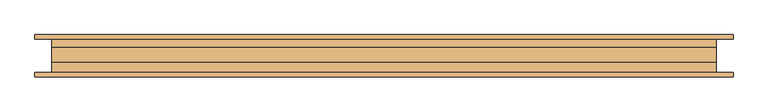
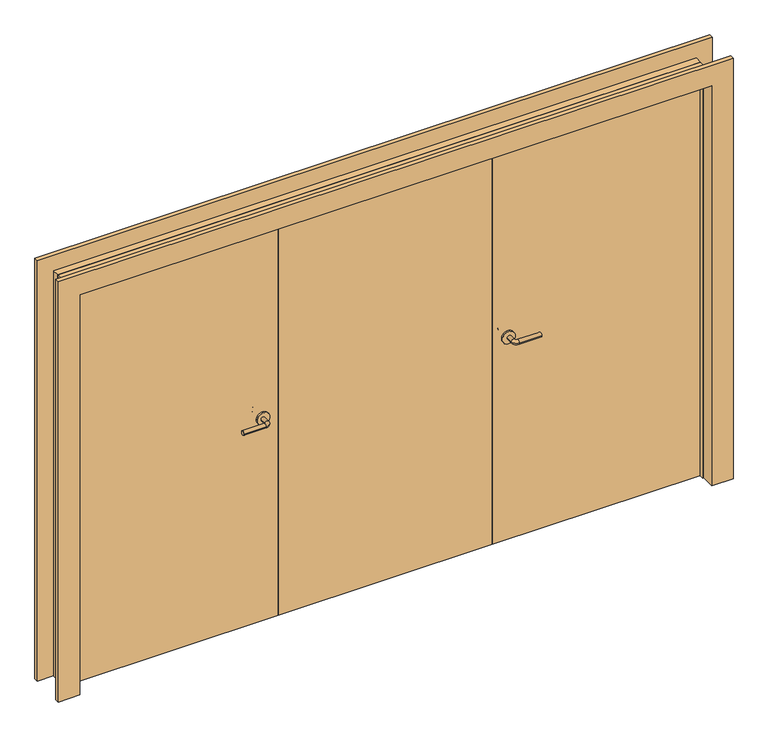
"""IFC4 building model written with IfcOpenShell, lengths in millimetres: door geometry, BIMHealth-Triple_Door-LOD2A-v1 : BIMHealth-Triple_Door-LOD2A-v1."""

from ifc_helpers import new_model, si_unit, point, frame, frame_2d, origin, origin_with_axes, place, context, project, spatial, polyline, circle_curve, ellipse_curve, trimmed, segment, composite_curve, outline, extrude, faceted_brep, source, transform, mapped, element, save
from ifc_brep_helpers import plane_surface, cylinder_surface, revolved_surface, advanced_brep


def door_7abc1c69(model_context):
    return source(origin(), model_context, "Body", "SolidModel", [
        advanced_brep(
        [(-565.0, -17.0700256, 1000.0), (-585.0, -17.0700256, 1000.0), (-565.0, -47.0700256, 1000.0), (-585.0, -47.0700256, 1000.0), (-590.0, -52.0700256, 1000.0), (-590.0, -72.0700256, 1000.0), (-695.0, -72.0700256, 1000.0), (-695.0, -52.0700256, 1000.0)],
        [
            (0, 1, circle_curve(frame((-575.0, -17.0700256, 1000.0), z_axis=(0.0, 1.0, 0.0), x_axis=(-1.0, 0.0, 0.0)), 10.0)),
            (1, 0, circle_curve(frame((-575.0, -17.0700256, 1000.0), z_axis=(0.0, 1.0, 0.0), x_axis=(-1.0, 0.0, 0.0)), 10.0)),
            (0, 2),
            (2, 3, circle_curve(frame((-575.0, -47.0700256, 1000.0), z_axis=(0.0, 1.0, 0.0), x_axis=(-1.0, 0.0, 0.0)), 10.0)),
            (3, 1),
            (3, 2, circle_curve(frame((-575.0, -47.0700256, 1000.0), z_axis=(0.0, 1.0, 0.0), x_axis=(-1.0, 0.0, 0.0)), 10.0)),
            (4, 3, circle_curve(frame((-590.0, -47.0700256, 1000.0), z_axis=(0.0, 0.0, 1.0), x_axis=(1.0, 0.0, 0.0)), 5.0)),
            (2, 5, circle_curve(frame((-590.0, -47.0700256, 1000.0), z_axis=(0.0, 0.0, -1.0), x_axis=(1.0, 0.0, 0.0)), 25.0)),
            (5, 4, circle_curve(frame((-590.0, -62.0700256, 1000.0), z_axis=(1.0, 0.0, 0.0), x_axis=(0.0, 1.0, 0.0)), 10.0)),
            (4, 5, circle_curve(frame((-590.0, -62.0700256, 1000.0), z_axis=(1.0, 0.0, 0.0), x_axis=(0.0, 1.0, 0.0)), 10.0)),
            (6, 7, circle_curve(frame((-695.0, -62.0700256, 1000.0), z_axis=(-1.0, 0.0, 0.0), x_axis=(0.0, 1.0, 0.0)), 10.0)),
            (7, 6, circle_curve(frame((-695.0, -62.0700256, 1000.0), z_axis=(-1.0, 0.0, 0.0), x_axis=(0.0, 1.0, 0.0)), 10.0)),
            (5, 6),
            (7, 4),
        ],
        [
            plane_surface(frame((-575.0, -17.0700256, 1000.0), z_axis=(0.0, 1.0, 0.0), x_axis=(0.0, 0.0, 1.0))),
            cylinder_surface(frame((-575.0, -17.0700256, 1000.0), z_axis=(0.0, 1.0, 0.0), x_axis=(-1.0, 0.0, 0.0)), 10.0),
            revolved_surface(trimmed(ellipse_curve(frame((-575.0, -47.0700256, 1000.0), z_axis=(0.0, 1.0, 0.0), x_axis=(-1.0, 0.0, 0.0)), 10.0, 10.0), [point((-565.0, -47.0700256, 1000.0))], [point((-585.0, -47.0700256, 1000.0))], True, "CARTESIAN"), (-590.0, -47.0700256, 1000.0), (0.0, 0.0, -1.0)),
            revolved_surface(trimmed(ellipse_curve(frame((-575.0, -47.0700256, 1000.0), z_axis=(0.0, 1.0, 0.0), x_axis=(-1.0, 0.0, 0.0)), 10.0, 10.0), [point((-585.0, -47.0700256, 1000.0))], [point((-565.0, -47.0700256, 1000.0))], True, "CARTESIAN"), (-590.0, -47.0700256, 1000.0), (0.0, 0.0, -1.0)),
            plane_surface(frame((-695.0, -62.0700256, 1000.0), z_axis=(-1.0, 0.0, 0.0), x_axis=(0.0, 0.0, 1.0))),
            cylinder_surface(frame((-590.0, -62.0700256, 1000.0), z_axis=(1.0, 0.0, 0.0), x_axis=(0.0, 1.0, 0.0)), 10.0),
        ],
        [
            (0, [[1, 2]]),
            (1, [[-1, 3, 4, 5]]),
            (1, [[-2, -5, 6, -3]]),
            (2, [[7, -4, 8, 9]]),
            (3, [[-8, -6, -7, 10]]),
            (4, [[11, 12]]),
            (5, [[-9, 13, -12, 14]]),
            (5, [[-10, -14, -11, -13]]),
        ],
    ),
        extrude(outline(composite_curve([segment(trimmed(circle_curve(frame_2d((1000.0, -572.5)), 30.0), [point((1000.0, -542.5))], [point((1000.0, -602.5))], False, "CARTESIAN"), True, "CONTINUOUS"), segment(trimmed(circle_curve(frame_2d((1000.0, -572.5)), 30.0), [point((1000.0, -602.5))], [point((1000.0, -542.5))], False, "CARTESIAN"), True, "CONTINUOUS")], self_intersect=False)), frame((0.0, -17.0700256, 0.0), z_axis=(0.0, 1.0, 0.0), x_axis=(0.0, 0.0, 1.0)), (0.0, 0.0, 1.0), 8.0),
        advanced_brep(
        [(-565.0, 23.9299744, 1000.0), (-585.0, 23.9299744, 1000.0), (-585.0, 53.9299744, 1000.0), (-565.0, 53.9299744, 1000.0), (-590.0, 58.9299744, 1000.0), (-590.0, 78.9299744, 1000.0), (-695.0, 78.9299744, 1000.0), (-695.0, 58.9299744, 1000.0)],
        [
            (0, 1, circle_curve(frame((-575.0, 23.9299744, 1000.0), z_axis=(0.0, -1.0, 0.0), x_axis=(-1.0, 0.0, 0.0)), 10.0)),
            (1, 0, circle_curve(frame((-575.0, 23.9299744, 1000.0), z_axis=(0.0, -1.0, 0.0), x_axis=(-1.0, 0.0, 0.0)), 10.0)),
            (1, 2),
            (2, 3, circle_curve(frame((-575.0, 53.9299744, 1000.0), z_axis=(0.0, -1.0, 0.0), x_axis=(-1.0, 0.0, 0.0)), 10.0)),
            (3, 0),
            (3, 2, circle_curve(frame((-575.0, 53.9299744, 1000.0), z_axis=(0.0, -1.0, 0.0), x_axis=(-1.0, 0.0, 0.0)), 10.0)),
            (4, 5, circle_curve(frame((-590.0, 68.9299744, 1000.0), z_axis=(1.0, 0.0, 0.0), x_axis=(0.0, -1.0, 0.0)), 10.0)),
            (5, 3, circle_curve(frame((-590.0, 53.9299744, 1000.0), z_axis=(0.0, 0.0, -1.0), x_axis=(1.0, 0.0, 0.0)), 25.0)),
            (2, 4, circle_curve(frame((-590.0, 53.9299744, 1000.0), z_axis=(0.0, 0.0, 1.0), x_axis=(1.0, 0.0, 0.0)), 5.0)),
            (5, 4, circle_curve(frame((-590.0, 68.9299744, 1000.0), z_axis=(1.0, 0.0, 0.0), x_axis=(0.0, -1.0, 0.0)), 10.0)),
            (6, 7, circle_curve(frame((-695.0, 68.9299744, 1000.0), z_axis=(-1.0, 0.0, 0.0), x_axis=(0.0, -1.0, 0.0)), 10.0)),
            (7, 6, circle_curve(frame((-695.0, 68.9299744, 1000.0), z_axis=(-1.0, 0.0, 0.0), x_axis=(0.0, -1.0, 0.0)), 10.0)),
            (4, 7),
            (6, 5),
        ],
        [
            plane_surface(frame((-575.0, 23.9299744, 1000.0), z_axis=(0.0, -1.0, 0.0), x_axis=(0.0, 0.0, 1.0))),
            cylinder_surface(frame((-575.0, 23.9299744, 1000.0), z_axis=(0.0, -1.0, 0.0), x_axis=(-1.0, 0.0, 0.0)), 10.0),
            revolved_surface(trimmed(ellipse_curve(frame((-575.0, 53.9299744, 1000.0), z_axis=(0.0, 1.0, 0.0), x_axis=(-1.0, 0.0, 0.0)), 10.0, 10.0), [point((-565.0, 53.9299744, 1000.0))], [point((-585.0, 53.9299744, 1000.0))], True, "CARTESIAN"), (-590.0, 53.9299744, 1000.0), (0.0, 0.0, -1.0)),
            revolved_surface(trimmed(ellipse_curve(frame((-575.0, 53.9299744, 1000.0), z_axis=(0.0, 1.0, 0.0), x_axis=(-1.0, 0.0, 0.0)), 10.0, 10.0), [point((-585.0, 53.9299744, 1000.0))], [point((-565.0, 53.9299744, 1000.0))], True, "CARTESIAN"), (-590.0, 53.9299744, 1000.0), (0.0, 0.0, -1.0)),
            plane_surface(frame((-695.0, 68.9299744, 1000.0), z_axis=(-1.0, 0.0, 0.0), x_axis=(0.0, 0.0, 1.0))),
            cylinder_surface(frame((-590.0, 68.9299744, 1000.0), z_axis=(1.0, 0.0, 0.0), x_axis=(0.0, -1.0, 0.0)), 10.0),
        ],
        [
            (0, [[1, 2]]),
            (1, [[3, 4, 5, -2]]),
            (1, [[-5, 6, -3, -1]]),
            (2, [[7, 8, -4, 9]]),
            (3, [[10, -9, -6, -8]]),
            (4, [[11, 12]]),
            (5, [[13, -11, 14, -7]]),
            (5, [[-14, -12, -13, -10]]),
        ],
    ),
        extrude(outline(composite_curve([segment(trimmed(circle_curve(frame_2d((1000.0, -572.5)), 30.0), [point((1000.0, -542.5))], [point((1000.0, -602.5))], False, "CARTESIAN"), True, "CONTINUOUS"), segment(trimmed(circle_curve(frame_2d((1000.0, -572.5)), 30.0), [point((1000.0, -602.5))], [point((1000.0, -542.5))], False, "CARTESIAN"), True, "CONTINUOUS")], self_intersect=False)), frame((0.0, 15.9299744, 0.0), z_axis=(0.0, 1.0, 0.0), x_axis=(0.0, 0.0, 1.0)), (0.0, 0.0, 1.0), 8.0),
        advanced_brep(
        [(565.0, -17.0700256, 1000.0), (585.0, -17.0700256, 1000.0), (585.0, -47.0700256, 1000.0), (565.0, -47.0700256, 1000.0), (590.0, -52.0700256, 1000.0), (590.0, -72.0700256, 1000.0), (695.0, -72.0700256, 1000.0), (695.0, -52.0700256, 1000.0)],
        [
            (0, 1, circle_curve(frame((575.0, -17.0700256, 1000.0), z_axis=(0.0, 1.0, 0.0), x_axis=(1.0, 0.0, 0.0)), 10.0)),
            (1, 0, circle_curve(frame((575.0, -17.0700256, 1000.0), z_axis=(0.0, 1.0, 0.0), x_axis=(1.0, 0.0, 0.0)), 10.0)),
            (1, 2),
            (2, 3, circle_curve(frame((575.0, -47.0700256, 1000.0), z_axis=(0.0, 1.0, 0.0), x_axis=(1.0, 0.0, 0.0)), 10.0)),
            (3, 0),
            (3, 2, circle_curve(frame((575.0, -47.0700256, 1000.0), z_axis=(0.0, 1.0, 0.0), x_axis=(1.0, 0.0, 0.0)), 10.0)),
            (4, 5, circle_curve(frame((590.0, -62.0700256, 1000.0), z_axis=(-1.0, 0.0, 0.0), x_axis=(0.0, 1.0, 0.0)), 10.0)),
            (5, 3, circle_curve(frame((590.0, -47.0700256, 1000.0), z_axis=(0.0, 0.0, -1.0), x_axis=(-1.0, 0.0, 0.0)), 25.0)),
            (2, 4, circle_curve(frame((590.0, -47.0700256, 1000.0), z_axis=(0.0, 0.0, 1.0), x_axis=(-1.0, 0.0, 0.0)), 5.0)),
            (5, 4, circle_curve(frame((590.0, -62.0700256, 1000.0), z_axis=(-1.0, 0.0, 0.0), x_axis=(0.0, 1.0, 0.0)), 10.0)),
            (6, 7, circle_curve(frame((695.0, -62.0700256, 1000.0), z_axis=(1.0, 0.0, 0.0), x_axis=(0.0, 1.0, 0.0)), 10.0)),
            (7, 6, circle_curve(frame((695.0, -62.0700256, 1000.0), z_axis=(1.0, 0.0, 0.0), x_axis=(0.0, 1.0, 0.0)), 10.0)),
            (4, 7),
            (6, 5),
        ],
        [
            plane_surface(frame((575.0, -17.0700256, 1000.0), z_axis=(0.0, 1.0, 0.0), x_axis=(0.0, 0.0, 1.0))),
            cylinder_surface(frame((575.0, -17.0700256, 1000.0), z_axis=(0.0, 1.0, 0.0), x_axis=(1.0, 0.0, 0.0)), 10.0),
            revolved_surface(trimmed(ellipse_curve(frame((575.0, -47.0700256, 1000.0), z_axis=(0.0, -1.0, 0.0), x_axis=(1.0, 0.0, 0.0)), 10.0, 10.0), [point((565.0, -47.0700256, 1000.0))], [point((585.0, -47.0700256, 1000.0))], True, "CARTESIAN"), (590.0, -47.0700256, 1000.0), (0.0, 0.0, -1.0)),
            revolved_surface(trimmed(ellipse_curve(frame((575.0, -47.0700256, 1000.0), z_axis=(0.0, -1.0, 0.0), x_axis=(1.0, 0.0, 0.0)), 10.0, 10.0), [point((585.0, -47.0700256, 1000.0))], [point((565.0, -47.0700256, 1000.0))], True, "CARTESIAN"), (590.0, -47.0700256, 1000.0), (0.0, 0.0, -1.0)),
            plane_surface(frame((695.0, -62.0700256, 1000.0), z_axis=(1.0, 0.0, 0.0), x_axis=(0.0, 0.0, 1.0))),
            cylinder_surface(frame((590.0, -62.0700256, 1000.0), z_axis=(-1.0, 0.0, 0.0), x_axis=(0.0, 1.0, 0.0)), 10.0),
        ],
        [
            (0, [[1, 2]]),
            (1, [[3, 4, 5, -2]]),
            (1, [[-5, 6, -3, -1]]),
            (2, [[7, 8, -4, 9]]),
            (3, [[10, -9, -6, -8]]),
            (4, [[11, 12]]),
            (5, [[13, -11, 14, -7]]),
            (5, [[-14, -12, -13, -10]]),
        ],
    ),
        extrude(outline(composite_curve([segment(trimmed(circle_curve(frame_2d((1000.0, 572.5)), 30.0), [point((1000.0, 542.5))], [point((1000.0, 602.5))], False, "CARTESIAN"), True, "CONTINUOUS"), segment(trimmed(circle_curve(frame_2d((1000.0, 572.5)), 30.0), [point((1000.0, 602.5))], [point((1000.0, 542.5))], False, "CARTESIAN"), True, "CONTINUOUS")], self_intersect=False)), frame((0.0, -17.0700256, 0.0), z_axis=(0.0, 1.0, 0.0), x_axis=(0.0, 0.0, 1.0)), (0.0, 0.0, 1.0), 8.0),
        advanced_brep(
        [(565.0, 23.9299744, 1000.0), (585.0, 23.9299744, 1000.0), (565.0, 53.9299744, 1000.0), (585.0, 53.9299744, 1000.0), (590.0, 58.9299744, 1000.0), (590.0, 78.9299744, 1000.0), (695.0, 78.9299744, 1000.0), (695.0, 58.9299744, 1000.0)],
        [
            (0, 1, circle_curve(frame((575.0, 23.9299744, 1000.0), z_axis=(0.0, -1.0, 0.0), x_axis=(1.0, 0.0, 0.0)), 10.0)),
            (1, 0, circle_curve(frame((575.0, 23.9299744, 1000.0), z_axis=(0.0, -1.0, 0.0), x_axis=(1.0, 0.0, 0.0)), 10.0)),
            (0, 2),
            (2, 3, circle_curve(frame((575.0, 53.9299744, 1000.0), z_axis=(0.0, -1.0, 0.0), x_axis=(1.0, 0.0, 0.0)), 10.0)),
            (3, 1),
            (3, 2, circle_curve(frame((575.0, 53.9299744, 1000.0), z_axis=(0.0, -1.0, 0.0), x_axis=(1.0, 0.0, 0.0)), 10.0)),
            (4, 3, circle_curve(frame((590.0, 53.9299744, 1000.0), z_axis=(0.0, 0.0, 1.0), x_axis=(-1.0, 0.0, 0.0)), 5.0)),
            (2, 5, circle_curve(frame((590.0, 53.9299744, 1000.0), z_axis=(0.0, 0.0, -1.0), x_axis=(-1.0, 0.0, 0.0)), 25.0)),
            (5, 4, circle_curve(frame((590.0, 68.9299744, 1000.0), z_axis=(-1.0, 0.0, 0.0), x_axis=(0.0, -1.0, 0.0)), 10.0)),
            (4, 5, circle_curve(frame((590.0, 68.9299744, 1000.0), z_axis=(-1.0, 0.0, 0.0), x_axis=(0.0, -1.0, 0.0)), 10.0)),
            (6, 7, circle_curve(frame((695.0, 68.9299744, 1000.0), z_axis=(1.0, 0.0, 0.0), x_axis=(0.0, -1.0, 0.0)), 10.0)),
            (7, 6, circle_curve(frame((695.0, 68.9299744, 1000.0), z_axis=(1.0, 0.0, 0.0), x_axis=(0.0, -1.0, 0.0)), 10.0)),
            (5, 6),
            (7, 4),
        ],
        [
            plane_surface(frame((575.0, 23.9299744, 1000.0), z_axis=(0.0, -1.0, 0.0), x_axis=(0.0, 0.0, 1.0))),
            cylinder_surface(frame((575.0, 23.9299744, 1000.0), z_axis=(0.0, -1.0, 0.0), x_axis=(1.0, 0.0, 0.0)), 10.0),
            revolved_surface(trimmed(ellipse_curve(frame((575.0, 53.9299744, 1000.0), z_axis=(0.0, -1.0, 0.0), x_axis=(1.0, 0.0, 0.0)), 10.0, 10.0), [point((565.0, 53.9299744, 1000.0))], [point((585.0, 53.9299744, 1000.0))], True, "CARTESIAN"), (590.0, 53.9299744, 1000.0), (0.0, 0.0, -1.0)),
            revolved_surface(trimmed(ellipse_curve(frame((575.0, 53.9299744, 1000.0), z_axis=(0.0, -1.0, 0.0), x_axis=(1.0, 0.0, 0.0)), 10.0, 10.0), [point((585.0, 53.9299744, 1000.0))], [point((565.0, 53.9299744, 1000.0))], True, "CARTESIAN"), (590.0, 53.9299744, 1000.0), (0.0, 0.0, -1.0)),
            plane_surface(frame((695.0, 68.9299744, 1000.0), z_axis=(1.0, 0.0, 0.0), x_axis=(0.0, 0.0, 1.0))),
            cylinder_surface(frame((590.0, 68.9299744, 1000.0), z_axis=(-1.0, 0.0, 0.0), x_axis=(0.0, -1.0, 0.0)), 10.0),
        ],
        [
            (0, [[1, 2]]),
            (1, [[-1, 3, 4, 5]]),
            (1, [[-2, -5, 6, -3]]),
            (2, [[7, -4, 8, 9]]),
            (3, [[-8, -6, -7, 10]]),
            (4, [[11, 12]]),
            (5, [[-9, 13, -12, 14]]),
            (5, [[-10, -14, -11, -13]]),
        ],
    ),
        extrude(outline(composite_curve([segment(trimmed(circle_curve(frame_2d((1000.0, 572.5)), 30.0), [point((1000.0, 542.5))], [point((1000.0, 602.5))], False, "CARTESIAN"), True, "CONTINUOUS"), segment(trimmed(circle_curve(frame_2d((1000.0, 572.5)), 30.0), [point((1000.0, 602.5))], [point((1000.0, 542.5))], False, "CARTESIAN"), True, "CONTINUOUS")], self_intersect=False)), frame((0.0, 15.9299744, 0.0), z_axis=(0.0, 1.0, 0.0), x_axis=(0.0, 0.0, 1.0)), (0.0, 0.0, 1.0), 8.0),
        extrude(outline(polyline([(500.0, 15.9299744), (1470.0, 15.9299744), (1470.0, -9.0700256), (500.0, -9.0700256), (500.0, 15.9299744)])), origin_with_axes(), (0.0, 0.0, 1.0), 1970.0),
        extrude(outline(polyline([(-500.0, 15.9299744), (500.0, 15.9299744), (500.0, -9.0700256), (-500.0, -9.0700256), (-500.0, 15.9299744)])), origin_with_axes(), (0.0, 0.0, 1.0), 1970.0),
        extrude(outline(polyline([(-1470.0, 15.9299744), (-500.0, 15.9299744), (-500.0, -9.0700256), (-1470.0, -9.0700256), (-1470.0, 15.9299744)])), origin_with_axes(), (0.0, 0.0, 1.0), 1970.0),
        faceted_brep([(1575.0, 75.0, 0.0), (1500.0, 75.0, 0.0), (1500.0, 40.0, 0.0), (1475.0, 40.0, 0.0), (1475.0, 95.0, 0.0), (1575.0, 95.0, 0.0), (1575.0, 75.0, 2075.0), (-1575.0, 75.0, 2075.0), (-1575.0, 75.0, 0.0), (-1500.0, 75.0, 0.0), (-1500.0, 75.0, 2000.0), (1500.0, 75.0, 2000.0), (1475.0, 40.0, 1975.0), (1475.0, 95.0, 1975.0), (-1475.0, 95.0, 1975.0), (-1475.0, 95.0, 0.0), (-1575.0, 95.0, 0.0), (-1575.0, 95.0, 2075.0), (1575.0, 95.0, 2075.0), (-1475.0, 40.0, 0.0), (-1500.0, 40.0, 0.0), (-1475.0, 40.0, 1975.0), (1500.0, 40.0, 2000.0), (-1500.0, 40.0, 2000.0)], [[[0, 1, 2, 3, 4, 5]], [[1, 0, 6, 7, 8, 9, 10, 11]], [[4, 3, 12, 13]], [[5, 4, 13, 14, 15, 16, 17, 18]], [[0, 5, 18, 6]], [[7, 17, 16, 8]], [[8, 16, 15, 19, 20, 9]], [[14, 21, 19, 15]], [[13, 12, 21, 14]], [[6, 18, 17, 7]], [[2, 1, 11, 22]], [[3, 2, 22, 23, 20, 19, 21, 12]], [[23, 10, 9, 20]], [[22, 11, 10, 23]]]),
        faceted_brep([(1575.0, -75.0, 0.0), (1575.0, -95.0, 0.0), (1475.0, -95.0, 0.0), (1475.0, -30.0, 0.0), (1500.0, -30.0, 0.0), (1500.0, -75.0, 0.0), (-1575.0, -75.0, 0.0), (-1500.0, -75.0, 0.0), (-1500.0, -30.0, 0.0), (-1475.0, -30.0, 0.0), (-1475.0, -95.0, 0.0), (-1575.0, -95.0, 0.0), (1575.0, -75.0, 2075.0), (1575.0, -95.0, 2075.0), (-1575.0, -95.0, 2075.0), (-1475.0, -95.0, 1975.0), (1475.0, -95.0, 1975.0), (1475.0, -30.0, 1975.0), (-1475.0, -30.0, 1975.0), (-1500.0, -30.0, 2000.0), (1500.0, -30.0, 2000.0), (1500.0, -75.0, 2000.0), (-1500.0, -75.0, 2000.0), (-1575.0, -75.0, 2075.0)], [[[0, 1, 2, 3, 4, 5]], [[6, 7, 8, 9, 10, 11]], [[1, 0, 12, 13]], [[2, 1, 13, 14, 11, 10, 15, 16]], [[3, 2, 16, 17]], [[4, 3, 17, 18, 9, 8, 19, 20]], [[5, 4, 20, 21]], [[0, 5, 21, 22, 7, 6, 23, 12]], [[22, 19, 8, 7]], [[18, 15, 10, 9]], [[14, 23, 6, 11]], [[13, 12, 23, 14]], [[17, 16, 15, 18]], [[21, 20, 19, 22]]]),
        faceted_brep([(1450.0, 40.0, 0.0), (1500.0, 40.0, 0.0), (1500.0, -30.0, 0.0), (1470.0, -30.0, 0.0), (1470.0, 20.0, 0.0), (1450.0, 20.0, 0.0), (1450.0, 40.0, 1950.0), (-1450.0, 40.0, 1950.0), (-1450.0, 40.0, 0.0), (-1500.0, 40.0, 0.0), (-1500.0, 40.0, 2000.0), (1500.0, 40.0, 2000.0), (1500.0, -30.0, 2000.0), (-1500.0, -30.0, 2000.0), (-1500.0, -30.0, 0.0), (-1470.0, -30.0, 0.0), (-1470.0, -30.0, 1970.0), (1470.0, -30.0, 1970.0), (1470.0, 20.0, 1970.0), (-1470.0, 20.0, 1970.0), (-1470.0, 20.0, 0.0), (-1450.0, 20.0, 0.0), (-1450.0, 20.0, 1950.0), (1450.0, 20.0, 1950.0)], [[[0, 1, 2, 3, 4, 5]], [[1, 0, 6, 7, 8, 9, 10, 11]], [[2, 1, 11, 12]], [[3, 2, 12, 13, 14, 15, 16, 17]], [[4, 3, 17, 18]], [[5, 4, 18, 19, 20, 21, 22, 23]], [[0, 5, 23, 6]], [[7, 22, 21, 8]], [[8, 21, 20, 15, 14, 9]], [[13, 10, 9, 14]], [[19, 16, 15, 20]], [[12, 11, 10, 13]], [[18, 17, 16, 19]], [[6, 23, 22, 7]]]),
    ])


if __name__ == "__main__":
    model = new_model("IFC4")
    model_context = context("Model", 3, world=origin())
    ifc_project = project(units=[si_unit("LENGTHUNIT", "METRE", prefix="MILLI")], contexts=[model_context])
    site = spatial("IfcSite", under=ifc_project)
    building = spatial("IfcBuilding", under=site)
    placement = place(None, origin())
    door_shape = door_7abc1c69(model_context)
    element("IfcDoor", 1, ObjectType="BIMHealth-Triple_Door-LOD2A-v1 : BIMHealth-Triple_Door-LOD2A-v1", at=placement, inside=building, context=model_context, shape_type="MappedRepresentation", body=[
        mapped(door_shape, transform((0.0, 0.0, 0.0), x_axis=(1.0, 0.0, 0.0), y_axis=(0.0, 1.0, 0.0), z_axis=(0.0, 0.0, 1.0))),
    ])
    save(model, "model.ifc")
